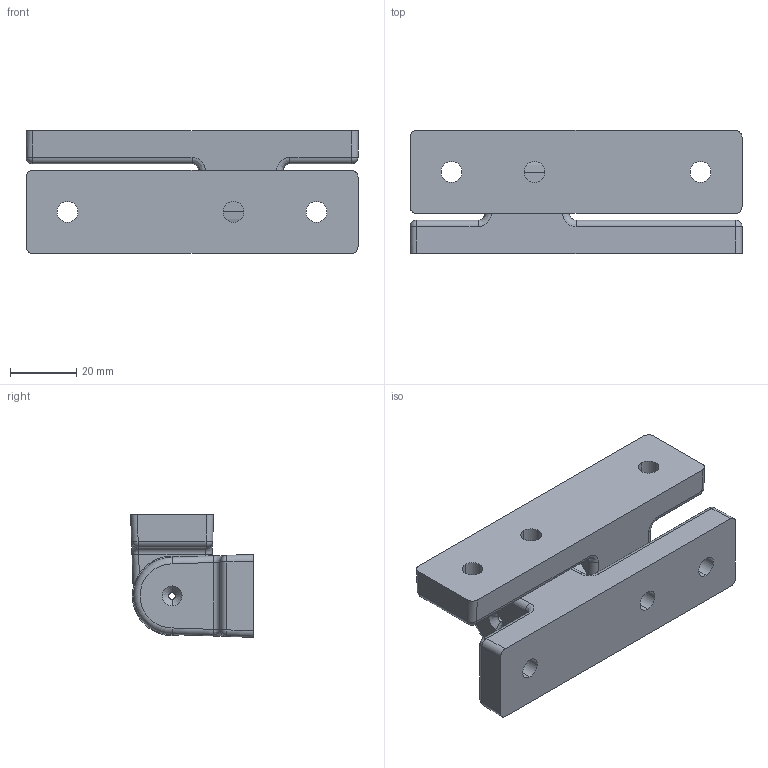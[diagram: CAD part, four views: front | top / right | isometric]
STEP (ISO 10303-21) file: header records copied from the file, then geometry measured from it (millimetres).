
FILE_DESCRIPTION (( 'STEP AP214' ), '1' );
FILE_NAME ('EFH-120-1.STEP', '2020-03-02T02:51:25', ( '' ), ( '' ), 'SwSTEP 2.0', 'SolidWorks 2019', '' );
FILE_SCHEMA (( 'AUTOMOTIVE_DESIGN' ));
Length unit declared in the file: millimetre
Products named in the file (3): EFH-120-1Hinge; EFH-120-1; Washer
Assembly tree (3 placements, depth 2):
  EFH-120-1
    EFH-120-1Hinge  x2
    Washer
Bounding box: 100 x 37 x 37 mm (x, y, z)
Volume: 75412.8 mm3; surface area: 20712.5 mm2
Topology: 3 solids, 3 shells, 130 faces, 296 edges, 164 vertices
Faces by surface type: cylinder 66, plane 20, cone 16, torus 12, sphere 8, bspline 8
Entity records: 2130 total; most frequent: CARTESIAN_POINT 514, DIRECTION 344, ORIENTED_EDGE 300, EDGE_CURVE 150, AXIS2_PLACEMENT_3D 140, VERTEX_POINT 86, EDGE_LOOP 78, CIRCLE 70
